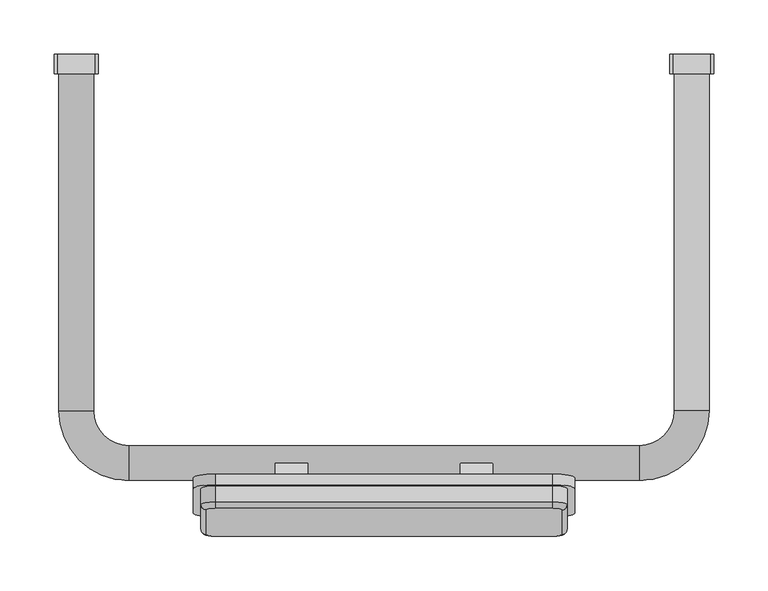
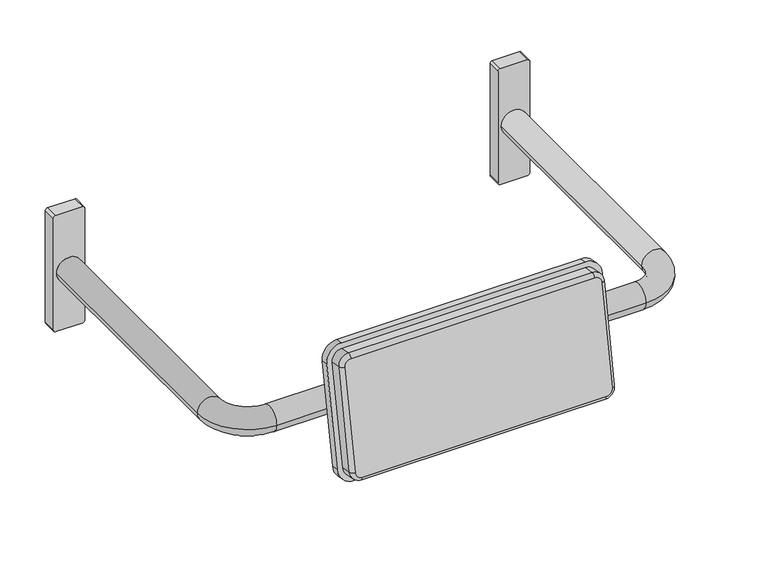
"""IFC4 building model written with IfcOpenShell, lengths in millimetres: proxy geometry, Backrest_Metlam_Straight Rail : 597w x 442d x 156h (MLR119MKII)."""

from ifc_helpers import new_model, si_unit, point, frame, origin, place, context, project, spatial, circle_curve, ellipse_curve, trimmed, source, transform, mapped, element, save
from ifc_brep_helpers import plane_surface, cylinder_surface, revolved_surface, advanced_brep


def specialty_equipment_59cae8f1(model_context):
    return source(origin(), model_context, "Body", "AdvancedBrep", [
        advanced_brep(
        [(97.0363457, -385.1433941, 791.708659), (117.0363457, -388.6163577, 772.0125039), (117.0363457, -411.1906208, 643.9874961), (97.0363457, -414.6635843, 624.291341), (-212.9636543, -414.6635843, 624.291341), (-232.9636543, -411.1906208, 643.9874961), (-232.9636543, -388.6163577, 772.0125039), (-212.9636543, -385.1433941, 791.708659), (105.0363457, -418.1605902, 777.2219493), (97.0363457, -416.7714048, 785.1004113), (-212.9636543, -416.7714048, 785.1004113), (-220.9636543, -418.1605902, 777.2219493), (-220.9636543, -440.7348533, 649.1969414), (-212.9636543, -442.1240388, 641.3184794), (97.0363457, -442.1240388, 641.3184794), (105.0363457, -440.7348533, 649.1969414), (97.0363457, -394.9914716, 793.4451408), (117.0363457, -398.4644352, 773.7489857), (110.0363457, -413.2365515, 776.3537084), (97.0363457, -410.9791252, 789.1562092), (110.0363457, -398.4644352, 773.7489857), (97.0363457, -396.2070089, 786.5514865), (117.0363457, -421.0386983, 645.7239778), (110.0363457, -435.8108146, 648.3287005), (110.0363457, -421.0386983, 645.7239778), (97.0363457, -424.5116618, 626.0278228), (97.0363457, -438.0682409, 635.5261997), (97.0363457, -423.2961246, 632.921477), (-212.9636543, -424.5116618, 626.0278228), (-212.9636543, -438.0682409, 635.5261997), (-212.9636543, -423.2961246, 632.921477), (-232.9636543, -421.0386983, 645.7239778), (-225.9636543, -435.8108146, 648.3287005), (-225.9636543, -421.0386983, 645.7239778), (-232.9636543, -398.4644352, 773.7489857), (-225.9636543, -413.2365515, 776.3537084), (-225.9636543, -398.4644352, 773.7489857), (-212.9636543, -394.9914716, 793.4451408), (-212.9636543, -410.9791252, 789.1562092), (-212.9636543, -396.2070089, 786.5514865)],
        [
            (0, 1, circle_curve(frame((97.0363457, -388.6163577, 772.0125039), z_axis=(0.0, 0.9848077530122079, -0.17364817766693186), x_axis=(0.0, 0.17364817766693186, 0.9848077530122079)), 20.0)),
            (1, 2),
            (2, 3, circle_curve(frame((97.0363457, -411.1906208, 643.9874961), z_axis=(0.0, 0.9848077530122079, -0.17364817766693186), x_axis=(1.0, 0.0, 0.0)), 20.0)),
            (3, 4),
            (4, 5, circle_curve(frame((-212.9636543, -411.1906208, 643.9874961), z_axis=(0.0, 0.9848077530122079, -0.17364817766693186), x_axis=(0.0, -0.17364817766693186, -0.9848077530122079)), 20.0)),
            (5, 6),
            (6, 7, circle_curve(frame((-212.9636543, -388.6163577, 772.0125039), z_axis=(0.0, 0.9848077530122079, -0.17364817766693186), x_axis=(-1.0, 0.0, 0.0)), 20.0)),
            (7, 0),
            (8, 9, circle_curve(frame((97.0363457, -418.1605902, 777.2219493), z_axis=(0.0, -0.9848077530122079, 0.17364817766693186), x_axis=(0.0, 0.17364817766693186, 0.9848077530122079)), 8.0)),
            (9, 10),
            (10, 11, circle_curve(frame((-212.9636543, -418.1605902, 777.2219493), z_axis=(0.0, -0.9848077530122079, 0.17364817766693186), x_axis=(-1.0, 0.0, 0.0)), 8.0)),
            (11, 12),
            (12, 13, circle_curve(frame((-212.9636543, -440.7348533, 649.1969414), z_axis=(0.0, -0.9848077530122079, 0.17364817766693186), x_axis=(0.0, -0.17364817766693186, -0.9848077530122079)), 8.0)),
            (13, 14),
            (14, 15, circle_curve(frame((97.0363457, -440.7348533, 649.1969414), z_axis=(0.0, -0.9848077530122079, 0.17364817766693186), x_axis=(1.0, 0.0, 0.0)), 8.0)),
            (15, 8),
            (0, 16),
            (16, 17, circle_curve(frame((97.0363457, -398.4644352, 773.7489857), z_axis=(0.0, 0.9848077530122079, -0.17364817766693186), x_axis=(0.0, 0.17364817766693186, 0.9848077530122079)), 20.0)),
            (17, 1),
            (18, 19, circle_curve(frame((97.0363457, -413.2365515, 776.3537084), z_axis=(0.0, -0.9848077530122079, 0.17364817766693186), x_axis=(0.0, 0.17364817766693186, 0.9848077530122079)), 13.0)),
            (19, 9, circle_curve(frame((97.0363457, -411.8473661, 784.2321704), z_axis=(1.0000000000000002, 0.0, 0.0), x_axis=(0.0, -0.17364817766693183, -0.9848077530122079)), 5.0)),
            (8, 18, circle_curve(frame((105.0363457, -413.2365515, 776.3537084), z_axis=(0.0, 0.17364817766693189, 0.9848077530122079), x_axis=(-1.0000000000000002, 0.0, 0.0)), 5.0)),
            (18, 20),
            (20, 21, circle_curve(frame((97.0363457, -398.4644352, 773.7489857), z_axis=(0.0, -0.9848077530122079, 0.17364817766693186), x_axis=(0.0, 0.17364817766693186, 0.9848077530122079)), 13.0)),
            (21, 19),
            (17, 22),
            (22, 2),
            (15, 23, circle_curve(frame((105.0363457, -435.8108146, 648.3287005), z_axis=(0.0, 0.17364817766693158, 0.984807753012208), x_axis=(-1.0, 0.0, 0.0)), 5.0)),
            (23, 18),
            (23, 24),
            (24, 20),
            (22, 25, circle_curve(frame((97.0363457, -421.0386983, 645.7239778), z_axis=(0.0, 0.9848077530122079, -0.17364817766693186), x_axis=(1.0, 0.0, 0.0)), 20.0)),
            (25, 3),
            (14, 26, circle_curve(frame((97.0363457, -437.2, 640.4502385), z_axis=(1.0, 0.0, 0.0), x_axis=(0.0, 0.17364817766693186, 0.9848077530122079)), 5.0)),
            (26, 23, circle_curve(frame((97.0363457, -435.8108146, 648.3287005), z_axis=(0.0, -0.9848077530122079, 0.17364817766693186), x_axis=(1.0, 0.0, 0.0)), 13.0)),
            (26, 27),
            (27, 24, circle_curve(frame((97.0363457, -421.0386983, 645.7239778), z_axis=(0.0, -0.9848077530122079, 0.17364817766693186), x_axis=(1.0, 0.0, 0.0)), 13.0)),
            (25, 28),
            (28, 4),
            (13, 29, circle_curve(frame((-212.9636543, -437.2, 640.4502385), z_axis=(1.0, 0.0, 0.0), x_axis=(0.0, 0.17364817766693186, 0.9848077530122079)), 5.0)),
            (29, 26),
            (29, 30),
            (30, 27),
            (28, 31, circle_curve(frame((-212.9636543, -421.0386983, 645.7239778), z_axis=(0.0, 0.9848077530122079, -0.17364817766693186), x_axis=(0.0, -0.17364817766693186, -0.9848077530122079)), 20.0)),
            (31, 5),
            (12, 32, circle_curve(frame((-220.9636543, -435.8108146, 648.3287005), z_axis=(0.0, -0.1736481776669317, -0.9848077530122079), x_axis=(1.0000000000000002, 0.0, 0.0)), 5.0)),
            (32, 29, circle_curve(frame((-212.9636543, -435.8108146, 648.3287005), z_axis=(0.0, -0.9848077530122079, 0.17364817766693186), x_axis=(0.0, -0.17364817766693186, -0.9848077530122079)), 13.0)),
            (32, 33),
            (33, 30, circle_curve(frame((-212.9636543, -421.0386983, 645.7239778), z_axis=(0.0, -0.9848077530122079, 0.17364817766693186), x_axis=(0.0, -0.17364817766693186, -0.9848077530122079)), 13.0)),
            (31, 34),
            (34, 6),
            (11, 35, circle_curve(frame((-220.9636543, -413.2365515, 776.3537084), z_axis=(0.0, -0.17364817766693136, -0.984807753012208), x_axis=(1.0, 0.0, 0.0)), 5.0)),
            (35, 32),
            (35, 36),
            (36, 33),
            (34, 37, circle_curve(frame((-212.9636543, -398.4644352, 773.7489857), z_axis=(0.0, 0.9848077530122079, -0.17364817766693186), x_axis=(-1.0, 0.0, 0.0)), 20.0)),
            (37, 7),
            (10, 38, circle_curve(frame((-212.9636543, -411.8473661, 784.2321704), z_axis=(-1.0, 0.0, 0.0), x_axis=(0.0, -0.1736481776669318, -0.9848077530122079)), 5.0)),
            (38, 35, circle_curve(frame((-212.9636543, -413.2365515, 776.3537084), z_axis=(0.0, -0.9848077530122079, 0.17364817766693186), x_axis=(-1.0, 0.0, 0.0)), 13.0)),
            (38, 39),
            (39, 36, circle_curve(frame((-212.9636543, -398.4644352, 773.7489857), z_axis=(0.0, -0.9848077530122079, 0.17364817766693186), x_axis=(-1.0, 0.0, 0.0)), 13.0)),
            (37, 16),
            (19, 38),
            (21, 39),
        ],
        [
            plane_surface(frame((-212.9636543, -388.0954131, 774.9669272), z_axis=(0.0, 0.9848077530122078, -0.17364817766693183), x_axis=(1.0, 0.0, 0.0))),
            plane_surface(frame((-212.9636543, -417.6396457, 780.1763725), z_axis=(0.0, -0.9848077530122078, 0.17364817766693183), x_axis=(-1.0, 0.0, 0.0))),
            cylinder_surface(frame((97.0363457, -379.9813415, 770.4899176), z_axis=(0.0, 0.9848077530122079, -0.17364817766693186), x_axis=(0.0, 0.17364817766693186, 0.9848077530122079)), 20.0),
            revolved_surface(trimmed(ellipse_curve(frame((97.0363457, -411.8473661, 784.2321704), z_axis=(-1.0000000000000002, 0.0, 0.0), x_axis=(0.0, -0.17364817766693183, -0.9848077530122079)), 5.0, 5.0), [point((97.0363457, -416.7714048, 785.1004113))], [point((97.0363457, -410.9791252, 789.1562092))], True, "CARTESIAN"), (97.0363457, -379.9813415, 770.4899176), (0.0, 0.9848077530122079, -0.17364817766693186)),
            cylinder_surface(frame((97.0363457, -379.9813415, 770.4899176), z_axis=(0.0, 0.9848077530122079, -0.17364817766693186), x_axis=(0.0, 0.17364817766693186, 0.9848077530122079)), 13.0),
            plane_surface(frame((117.0363457, -398.4644352, 773.7489857), z_axis=(1.0, 0.0, 0.0), x_axis=(0.0, -0.17364817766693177, -0.9848077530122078))),
            cylinder_surface(frame((105.0363457, -413.2365515, 776.3537084), z_axis=(0.0, 0.17364817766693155, 0.9848077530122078), x_axis=(-1.0, 0.0, 0.0)), 5.0),
            plane_surface(frame((110.0363457, -413.2365515, 776.3537084), z_axis=(1.0, 0.0, 0.0), x_axis=(0.0, -0.17364817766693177, -0.9848077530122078))),
            cylinder_surface(frame((97.0363457, -402.5556046, 642.4649097), z_axis=(0.0, 0.9848077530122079, -0.17364817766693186), x_axis=(1.0, 0.0, 0.0)), 20.0),
            revolved_surface(trimmed(ellipse_curve(frame((105.0363457, -435.8108146, 648.3287005), z_axis=(0.0, 0.173648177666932, 0.9848077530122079), x_axis=(-1.0, 0.0, 0.0)), 5.0, 5.0), [point((105.0363457, -440.7348533, 649.1969414))], [point((110.0363457, -435.8108146, 648.3287005))], True, "CARTESIAN"), (97.0363457, -402.5556046, 642.4649097), (0.0, 0.9848077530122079, -0.17364817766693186)),
            cylinder_surface(frame((97.0363457, -402.5556046, 642.4649097), z_axis=(0.0, 0.9848077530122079, -0.17364817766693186), x_axis=(1.0, 0.0, 0.0)), 13.0),
            plane_surface(frame((97.0363457, -424.5116618, 626.0278228), z_axis=(0.0, -0.17364817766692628, -0.9848077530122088), x_axis=(-1.0, 0.0, 0.0))),
            cylinder_surface(frame((97.0363457, -437.2, 640.4502385), z_axis=(1.0000000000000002, 0.0, 0.0), x_axis=(0.0, 0.17364817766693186, 0.9848077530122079)), 5.0),
            plane_surface(frame((97.0363457, -438.0682409, 635.5261997), z_axis=(0.0, -0.17364817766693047, -0.9848077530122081), x_axis=(-1.0, 0.0, 0.0))),
            cylinder_surface(frame((-212.9636543, -402.5556046, 642.4649097), z_axis=(0.0, 0.9848077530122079, -0.17364817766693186), x_axis=(0.0, -0.17364817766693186, -0.9848077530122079)), 20.0),
            revolved_surface(trimmed(ellipse_curve(frame((-212.9636543, -437.2, 640.4502385), z_axis=(1.0000000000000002, 0.0, 0.0), x_axis=(0.0, 0.17364817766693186, 0.9848077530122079)), 5.0, 5.0), [point((-212.9636543, -442.1240388, 641.3184794))], [point((-212.9636543, -438.0682409, 635.5261997))], True, "CARTESIAN"), (-212.9636543, -402.5556046, 642.4649097), (0.0, 0.9848077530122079, -0.17364817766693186)),
            cylinder_surface(frame((-212.9636543, -402.5556046, 642.4649097), z_axis=(0.0, 0.9848077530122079, -0.17364817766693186), x_axis=(0.0, -0.17364817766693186, -0.9848077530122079)), 13.0),
            plane_surface(frame((-232.9636543, -421.0386983, 645.7239778), z_axis=(-1.0, 0.0, 0.0), x_axis=(0.0, 0.17364817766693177, 0.9848077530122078))),
            cylinder_surface(frame((-220.9636543, -435.8108146, 648.3287005), z_axis=(0.0, -0.17364817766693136, -0.984807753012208), x_axis=(1.0, 0.0, 0.0)), 5.0),
            plane_surface(frame((-225.9636543, -435.8108146, 648.3287005), z_axis=(-1.0, 0.0, 0.0), x_axis=(0.0, 0.17364817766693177, 0.9848077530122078))),
            cylinder_surface(frame((-212.9636543, -379.9813415, 770.4899176), z_axis=(0.0, 0.9848077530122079, -0.17364817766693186), x_axis=(-1.0, 0.0, 0.0)), 20.0),
            revolved_surface(trimmed(ellipse_curve(frame((-220.9636543, -413.2365515, 776.3537084), z_axis=(0.0, -0.17364817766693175, -0.9848077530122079), x_axis=(1.0, 0.0, 0.0)), 5.0, 5.0), [point((-220.9636543, -418.1605902, 777.2219493))], [point((-225.9636543, -413.2365515, 776.3537084))], True, "CARTESIAN"), (-212.9636543, -379.9813415, 770.4899176), (0.0, 0.9848077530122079, -0.17364817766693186)),
            cylinder_surface(frame((-212.9636543, -379.9813415, 770.4899176), z_axis=(0.0, 0.9848077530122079, -0.17364817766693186), x_axis=(-1.0, 0.0, 0.0)), 13.0),
            plane_surface(frame((-212.9636543, -394.9914716, 793.4451408), z_axis=(0.0, 0.1736481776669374, 0.9848077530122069), x_axis=(1.0, 0.0, 0.0))),
            cylinder_surface(frame((-212.9636543, -411.8473661, 784.2321704), z_axis=(-1.0, 0.0, 0.0), x_axis=(0.0, -0.1736481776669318, -0.9848077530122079)), 5.0),
            plane_surface(frame((-212.9636543, -410.9791252, 789.1562092), z_axis=(0.0, 0.1736481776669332, 0.9848077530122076), x_axis=(1.0, 0.0, 0.0))),
            plane_surface(frame((-212.9636543, -396.2070089, 786.5514865), z_axis=(0.0, -0.9848077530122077, 0.17364817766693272), x_axis=(1.0, 0.0, 0.0))),
        ],
        [
            (0, [[1, 2, 3, 4, 5, 6, 7, 8]]),
            (1, [[9, 10, 11, 12, 13, 14, 15, 16]]),
            (2, [[-1, 17, 18, 19]]),
            (3, [[20, 21, -9, 22]]),
            (4, [[-20, 23, 24, 25]]),
            (5, [[-19, 26, 27, -2]]),
            (6, [[-22, -16, 28, 29]]),
            (7, [[-23, -29, 30, 31]]),
            (8, [[-27, 32, 33, -3]]),
            (9, [[-28, -15, 34, 35]]),
            (10, [[-30, -35, 36, 37]]),
            (11, [[-33, 38, 39, -4]]),
            (12, [[-34, -14, 40, 41]]),
            (13, [[-36, -41, 42, 43]]),
            (14, [[-39, 44, 45, -5]]),
            (15, [[-40, -13, 46, 47]]),
            (16, [[-42, -47, 48, 49]]),
            (17, [[-45, 50, 51, -6]]),
            (18, [[-46, -12, 52, 53]]),
            (19, [[-48, -53, 54, 55]]),
            (20, [[-51, 56, 57, -7]]),
            (21, [[-52, -11, 58, 59]]),
            (22, [[-54, -59, 60, 61]]),
            (23, [[-17, -8, -57, 62]]),
            (24, [[-21, 63, -58, -10]]),
            (25, [[-25, 64, -60, -63]]),
            (26, [[-18, -62, -56, -50, -44, -38, -32, -26], [-24, -31, -37, -43, -49, -55, -61, -64]]),
        ],
    ),
        advanced_brep(
        [(-127.9636543, -391.0, 758.3121107), (-127.9636543, -408.7447014, 657.6769082), (-127.9636543, -375.0, 691.4216096), (-127.9636543, -375.0, 692.0), (-127.9636543, -391.0, 708.0), (-127.9636543, -375.0, 724.0), (-157.9636543, -391.0, 758.3121107), (-157.9636543, -375.0, 724.0), (-157.9636543, -391.0, 708.0), (-157.9636543, -375.0, 692.0), (-157.9636543, -375.0, 691.4216096), (-157.9636543, -408.7447014, 657.6769082), (-323.4636543, 0.0, 786.0), (-320.4636543, 0.0, 783.0), (-320.4636543, 0.0, 633.0), (-323.4636543, 0.0, 630.0), (-357.4636543, 0.0, 630.0), (-360.4636543, 0.0, 633.0), (-360.4636543, 0.0, 783.0), (-357.4636543, 0.0, 786.0), (-356.4636543, -327.0, 708.0), (-324.4636543, -327.0, 708.0), (-324.4636543, -17.5, 708.0), (-356.4636543, -17.5, 708.0), (-292.4636543, -391.0, 708.0), (-292.4636543, -359.0, 708.0), (12.0363457, -391.0, 708.0), (12.0363457, -375.0, 724.0), (42.0363457, -375.0, 724.0), (42.0363457, -391.0, 708.0), (176.5363457, -391.0, 708.0), (176.5363457, -359.0, 708.0), (42.0363457, -375.0, 692.0), (12.0363457, -375.0, 692.0), (240.5363457, -327.0, 708.0), (208.5363457, -327.0, 708.0), (207.5363457, 0.0, 786.0), (241.5363457, 0.0, 786.0), (244.5363457, 0.0, 783.0), (244.5363457, 0.0, 633.0), (241.5363457, 0.0, 630.0), (207.5363457, 0.0, 630.0), (204.5363457, 0.0, 633.0), (204.5363457, 0.0, 783.0), (240.5363457, -17.5, 708.0), (208.5363457, -17.5, 708.0), (-323.4636543, -17.5, 786.0), (-357.4636543, -17.5, 786.0), (-360.4636543, -17.5, 783.0), (-360.4636543, -17.5, 633.0), (-357.4636543, -17.5, 630.0), (-323.4636543, -17.5, 630.0), (-320.4636543, -17.5, 633.0), (-320.4636543, -17.5, 783.0), (207.5363457, -17.5, 786.0), (204.5363457, -17.5, 783.0), (204.5363457, -17.5, 633.0), (207.5363457, -17.5, 630.0), (241.5363457, -17.5, 630.0), (244.5363457, -17.5, 633.0), (244.5363457, -17.5, 783.0), (241.5363457, -17.5, 786.0), (12.0363457, -391.0, 758.3121107), (12.0363457, -375.0, 691.4216096), (12.0363457, -408.7447014, 657.6769082), (42.0363457, -391.0, 758.3121107), (42.0363457, -408.7447014, 657.6769082), (42.0363457, -375.0, 691.4216096)],
        [
            (0, 1),
            (1, 2),
            (2, 3),
            (3, 4, circle_curve(frame((-127.9636543, -375.0, 708.0), z_axis=(-1.0, 0.0, 0.0), x_axis=(0.0, 1.0, 0.0)), 16.0)),
            (4, 5, circle_curve(frame((-127.9636543, -375.0, 708.0), z_axis=(-1.0, 0.0, 0.0), x_axis=(0.0, 1.0, 0.0)), 16.0)),
            (5, 0),
            (6, 7),
            (7, 8, circle_curve(frame((-157.9636543, -375.0, 708.0), z_axis=(1.0, 0.0, 0.0), x_axis=(0.0, 1.0, 0.0)), 16.0)),
            (8, 9, circle_curve(frame((-157.9636543, -375.0, 708.0), z_axis=(1.0, 0.0, 0.0), x_axis=(0.0, 1.0, 0.0)), 16.0)),
            (9, 10),
            (10, 11),
            (11, 6),
            (0, 6),
            (11, 1),
            (10, 2),
            (9, 3),
            (5, 7),
            (12, 13, circle_curve(frame((-323.4636543, 0.0, 783.0), z_axis=(0.0, 1.0, 0.0), x_axis=(1.0, 0.0, 0.0)), 3.0)),
            (13, 14),
            (14, 15, circle_curve(frame((-323.4636543, 0.0, 633.0), z_axis=(0.0, 1.0, 0.0), x_axis=(1.0, 0.0, 0.0)), 3.0)),
            (15, 16),
            (16, 17, circle_curve(frame((-357.4636543, 0.0, 633.0), z_axis=(0.0, 1.0, 0.0), x_axis=(1.0, 0.0, 0.0)), 3.0)),
            (17, 18),
            (18, 19, circle_curve(frame((-357.4636543, 0.0, 783.0), z_axis=(0.0, 1.0, 0.0), x_axis=(1.0, 0.0, 0.0)), 3.0)),
            (19, 12),
            (20, 21, circle_curve(frame((-340.4636543, -327.0, 708.0), z_axis=(0.0, 1.0, 0.0), x_axis=(1.0, 0.0, 0.0)), 16.0)),
            (21, 22),
            (22, 23, circle_curve(frame((-340.4636543, -17.5, 708.0), z_axis=(0.0, -1.0, 0.0), x_axis=(1.0, 0.0, 0.0)), 16.0)),
            (23, 20),
            (21, 20, circle_curve(frame((-340.4636543, -327.0, 708.0), z_axis=(0.0, 1.0, 0.0), x_axis=(1.0, 0.0, 0.0)), 16.0)),
            (23, 22, circle_curve(frame((-340.4636543, -17.5, 708.0), z_axis=(0.0, -1.0, 0.0), x_axis=(1.0, 0.0, 0.0)), 16.0)),
            (20, 24, circle_curve(frame((-292.4636543, -327.0, 708.0), z_axis=(0.0, 0.0, 1.0), x_axis=(-1.0, 0.0, 0.0)), 64.0)),
            (24, 25, circle_curve(frame((-292.4636543, -375.0, 708.0), z_axis=(-1.0, 0.0, 0.0), x_axis=(0.0, 1.0, 0.0)), 16.0)),
            (25, 21, circle_curve(frame((-292.4636543, -327.0, 708.0), z_axis=(0.0, 0.0, -1.0), x_axis=(-1.0, 0.0, 0.0)), 32.0)),
            (25, 24, circle_curve(frame((-292.4636543, -375.0, 708.0), z_axis=(-1.0, 0.0, 0.0), x_axis=(0.0, 1.0, 0.0)), 16.0)),
            (24, 8),
            (4, 26),
            (26, 27, circle_curve(frame((12.0363457, -375.0, 708.0), z_axis=(-1.0, 0.0, 0.0), x_axis=(0.0, 1.0, 0.0)), 16.0)),
            (27, 28),
            (28, 29, circle_curve(frame((42.0363457, -375.0, 708.0), z_axis=(1.0, 0.0, 0.0), x_axis=(0.0, 1.0, 0.0)), 16.0)),
            (29, 30),
            (30, 31, circle_curve(frame((176.5363457, -375.0, 708.0), z_axis=(-1.0, 0.0, 0.0), x_axis=(0.0, 1.0, 0.0)), 16.0)),
            (31, 25),
            (31, 30, circle_curve(frame((176.5363457, -375.0, 708.0), z_axis=(-1.0, 0.0, 0.0), x_axis=(0.0, 1.0, 0.0)), 16.0)),
            (29, 32, circle_curve(frame((42.0363457, -375.0, 708.0), z_axis=(1.0, 0.0, 0.0), x_axis=(0.0, 1.0, 0.0)), 16.0)),
            (32, 33),
            (33, 26, circle_curve(frame((12.0363457, -375.0, 708.0), z_axis=(-1.0, 0.0, 0.0), x_axis=(0.0, 1.0, 0.0)), 16.0)),
            (30, 34, circle_curve(frame((176.5363457, -327.0, 708.0), z_axis=(0.0, 0.0, 1.0), x_axis=(0.0, -1.0, 0.0)), 64.0)),
            (34, 35, circle_curve(frame((224.5363457, -327.0, 708.0), z_axis=(0.0, -1.0, 0.0), x_axis=(-1.0, 0.0, 0.0)), 16.0)),
            (35, 31, circle_curve(frame((176.5363457, -327.0, 708.0), z_axis=(0.0, 0.0, -1.0), x_axis=(0.0, -1.0, 0.0)), 32.0)),
            (35, 34, circle_curve(frame((224.5363457, -327.0, 708.0), z_axis=(0.0, -1.0, 0.0), x_axis=(-1.0, 0.0, 0.0)), 16.0)),
            (36, 37),
            (37, 38, circle_curve(frame((241.5363457, 0.0, 783.0), z_axis=(0.0, 1.0, 0.0), x_axis=(-1.0, 0.0, 0.0)), 3.0)),
            (38, 39),
            (39, 40, circle_curve(frame((241.5363457, 0.0, 633.0), z_axis=(0.0, 1.0, 0.0), x_axis=(-1.0, 0.0, 0.0)), 3.0)),
            (40, 41),
            (41, 42, circle_curve(frame((207.5363457, 0.0, 633.0), z_axis=(0.0, 1.0, 0.0), x_axis=(-1.0, 0.0, 0.0)), 3.0)),
            (42, 43),
            (43, 36, circle_curve(frame((207.5363457, 0.0, 783.0), z_axis=(0.0, 1.0, 0.0), x_axis=(-1.0, 0.0, 0.0)), 3.0)),
            (34, 44),
            (44, 45, circle_curve(frame((224.5363457, -17.5, 708.0), z_axis=(0.0, -1.0, 0.0), x_axis=(-1.0, 0.0, 0.0)), 16.0)),
            (45, 35),
            (45, 44, circle_curve(frame((224.5363457, -17.5, 708.0), z_axis=(0.0, -1.0, 0.0), x_axis=(-1.0, 0.0, 0.0)), 16.0)),
            (46, 47),
            (47, 48, circle_curve(frame((-357.4636543, -17.5, 783.0), z_axis=(0.0, -1.0, 0.0), x_axis=(1.0, 0.0, 0.0)), 3.0)),
            (48, 49),
            (49, 50, circle_curve(frame((-357.4636543, -17.5, 633.0), z_axis=(0.0, -1.0, 0.0), x_axis=(1.0, 0.0, 0.0)), 3.0)),
            (50, 51),
            (51, 52, circle_curve(frame((-323.4636543, -17.5, 633.0), z_axis=(0.0, -1.0, 0.0), x_axis=(1.0, 0.0, 0.0)), 3.0)),
            (52, 53),
            (53, 46, circle_curve(frame((-323.4636543, -17.5, 783.0), z_axis=(0.0, -1.0, 0.0), x_axis=(1.0, 0.0, 0.0)), 3.0)),
            (46, 12),
            (19, 47),
            (18, 48),
            (17, 49),
            (16, 50),
            (15, 51),
            (14, 52),
            (13, 53),
            (54, 55, circle_curve(frame((207.5363457, -17.5, 783.0), z_axis=(0.0, -1.0, 0.0), x_axis=(-1.0, 0.0, 0.0)), 3.0)),
            (55, 56),
            (56, 57, circle_curve(frame((207.5363457, -17.5, 633.0), z_axis=(0.0, -1.0, 0.0), x_axis=(-1.0, 0.0, 0.0)), 3.0)),
            (57, 58),
            (58, 59, circle_curve(frame((241.5363457, -17.5, 633.0), z_axis=(0.0, -1.0, 0.0), x_axis=(-1.0, 0.0, 0.0)), 3.0)),
            (59, 60),
            (60, 61, circle_curve(frame((241.5363457, -17.5, 783.0), z_axis=(0.0, -1.0, 0.0), x_axis=(-1.0, 0.0, 0.0)), 3.0)),
            (61, 54),
            (61, 37),
            (36, 54),
            (60, 38),
            (59, 39),
            (58, 40),
            (57, 41),
            (56, 42),
            (55, 43),
            (62, 27),
            (33, 63),
            (63, 64),
            (64, 62),
            (65, 66),
            (66, 67),
            (67, 32),
            (28, 65),
            (64, 66),
            (65, 62),
            (63, 67),
        ],
        [
            plane_surface(frame((-127.9636543, -391.0, 758.3121107), z_axis=(1.0, 0.0, 0.0), x_axis=(0.0, -0.1736481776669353, -0.9848077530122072))),
            plane_surface(frame((-157.9636543, -391.0, 758.3121107), z_axis=(-1.0, 0.0, 0.0), x_axis=(0.0, 0.1736481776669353, 0.9848077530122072))),
            plane_surface(frame((-127.9636543, -391.0, 758.3121107), z_axis=(0.0, -0.9848077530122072, 0.1736481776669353), x_axis=(-1.0, 0.0, 0.0))),
            plane_surface(frame((-127.9636543, -408.7447014, 657.6769082), z_axis=(0.0, 0.7071067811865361, -0.7071067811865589), x_axis=(-1.0, 0.0, 0.0))),
            plane_surface(frame((-127.9636543, -375.0, 691.4216096), z_axis=(0.0, 1.0, 0.0), x_axis=(-1.0, 0.0, 0.0))),
            plane_surface(frame((-127.9636543, -375.0, 724.0), z_axis=(0.0, 0.9063077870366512, 0.42261826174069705), x_axis=(-1.0, 0.0, 0.0))),
            plane_surface(frame((-340.4636543, 0.0, 708.0), z_axis=(0.0, 1.0, 0.0), x_axis=(0.0, 0.0, 1.0))),
            cylinder_surface(frame((-340.4636543, 0.0, 708.0), z_axis=(0.0, 1.0, 0.0), x_axis=(1.0, 0.0, 0.0)), 16.0),
            revolved_surface(trimmed(ellipse_curve(frame((-340.4636543, -327.0, 708.0), z_axis=(0.0, 1.0, 0.0), x_axis=(1.0, 0.0, 0.0)), 16.0, 16.0), [point((-356.4636543, -327.0, 708.0))], [point((-324.4636543, -327.0, 708.0))], True, "CARTESIAN"), (-292.4636543, -327.0, 708.0), (0.0, 0.0, 1.0)),
            revolved_surface(trimmed(ellipse_curve(frame((-340.4636543, -327.0, 708.0), z_axis=(0.0, 1.0, 0.0), x_axis=(1.0, 0.0, 0.0)), 16.0, 16.0), [point((-324.4636543, -327.0, 708.0))], [point((-356.4636543, -327.0, 708.0))], True, "CARTESIAN"), (-292.4636543, -327.0, 708.0), (0.0, 0.0, 1.0)),
            cylinder_surface(frame((-292.4636543, -375.0, 708.0), z_axis=(-1.0, 0.0, 0.0), x_axis=(0.0, 1.0, 0.0)), 16.0),
            revolved_surface(trimmed(ellipse_curve(frame((176.5363457, -375.0, 708.0), z_axis=(-1.0, 0.0, 0.0), x_axis=(0.0, 1.0, 0.0)), 16.0, 16.0), [point((176.5363457, -391.0, 708.0))], [point((176.5363457, -359.0, 708.0))], True, "CARTESIAN"), (176.5363457, -327.0, 708.0), (0.0, 0.0, 1.0)),
            revolved_surface(trimmed(ellipse_curve(frame((176.5363457, -375.0, 708.0), z_axis=(-1.0, 0.0, 0.0), x_axis=(0.0, 1.0, 0.0)), 16.0, 16.0), [point((176.5363457, -359.0, 708.0))], [point((176.5363457, -391.0, 708.0))], True, "CARTESIAN"), (176.5363457, -327.0, 708.0), (0.0, 0.0, 1.0)),
            plane_surface(frame((224.5363457, 0.0, 708.0), z_axis=(0.0, 1.0, 0.0), x_axis=(0.0, 0.0, 1.0))),
            cylinder_surface(frame((224.5363457, -327.0, 708.0), z_axis=(0.0, -1.0, 0.0), x_axis=(-1.0, 0.0, 0.0)), 16.0),
            plane_surface(frame((-360.4636543, -17.5, 786.0), z_axis=(0.0, -1.0, 0.0), x_axis=(-1.0, 0.0, 0.0))),
            plane_surface(frame((-323.4636543, -17.5, 786.0), z_axis=(0.0, 0.0, 1.0), x_axis=(0.0, 1.0, 0.0))),
            cylinder_surface(frame((-357.4636543, 0.0, 783.0), z_axis=(0.0, -1.0, 0.0), x_axis=(1.0, 0.0, 0.0)), 3.0),
            plane_surface(frame((-360.4636543, -17.5, 783.0), z_axis=(-1.0, 0.0, 0.0), x_axis=(0.0, 1.0, 0.0))),
            cylinder_surface(frame((-357.4636543, 0.0, 633.0), z_axis=(0.0, -1.0, 0.0), x_axis=(1.0, 0.0, 0.0)), 3.0),
            plane_surface(frame((-357.4636543, -17.5, 630.0), z_axis=(0.0, 0.0, -1.0), x_axis=(0.0, 1.0, 0.0))),
            cylinder_surface(frame((-323.4636543, 0.0, 633.0), z_axis=(0.0, -1.0, 0.0), x_axis=(1.0, 0.0, 0.0)), 3.0),
            plane_surface(frame((-320.4636543, -17.5, 633.0), z_axis=(1.0, 0.0, 0.0), x_axis=(0.0, 1.0, 0.0))),
            cylinder_surface(frame((-323.4636543, 0.0, 783.0), z_axis=(0.0, -1.0, 0.0), x_axis=(1.0, 0.0, 0.0)), 3.0),
            plane_surface(frame((204.5363457, -17.5, 783.0), z_axis=(0.0, -1.0, 0.0), x_axis=(0.0, 0.0, -1.0))),
            plane_surface(frame((241.5363457, -17.5, 786.0), z_axis=(0.0, 0.0, 1.0), x_axis=(0.0, 1.0, 0.0))),
            cylinder_surface(frame((241.5363457, 0.0, 783.0), z_axis=(0.0, -1.0, 0.0), x_axis=(-1.0, 0.0, 0.0)), 3.0),
            plane_surface(frame((244.5363457, -17.5, 633.0), z_axis=(1.0, 0.0, 0.0), x_axis=(0.0, 1.0, 0.0))),
            cylinder_surface(frame((241.5363457, 0.0, 633.0), z_axis=(0.0, -1.0, 0.0), x_axis=(-1.0, 0.0, 0.0)), 3.0),
            plane_surface(frame((207.5363457, -17.5, 630.0), z_axis=(0.0, 0.0, -1.0), x_axis=(0.0, 1.0, 0.0))),
            cylinder_surface(frame((207.5363457, 0.0, 633.0), z_axis=(0.0, -1.0, 0.0), x_axis=(-1.0, 0.0, 0.0)), 3.0),
            plane_surface(frame((204.5363457, -17.5, 783.0), z_axis=(-1.0, 0.0, 0.0), x_axis=(0.0, 1.0, 0.0))),
            cylinder_surface(frame((207.5363457, 0.0, 783.0), z_axis=(0.0, -1.0, 0.0), x_axis=(-1.0, 0.0, 0.0)), 3.0),
            plane_surface(frame((12.0363457, -375.0, 724.0), z_axis=(-1.0000000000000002, 0.0, 0.0), x_axis=(0.0, 0.42261826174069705, -0.9063077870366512))),
            plane_surface(frame((42.0363457, -375.0, 724.0), z_axis=(1.0000000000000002, 0.0, 0.0), x_axis=(0.0, -0.42261826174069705, 0.9063077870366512))),
            plane_surface(frame((12.0363457, -408.7447014, 657.6769082), z_axis=(0.0, -0.9848077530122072, 0.1736481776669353), x_axis=(1.0, 0.0, 0.0))),
            plane_surface(frame((12.0363457, -375.0, 691.4216096), z_axis=(0.0, 0.7071067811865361, -0.7071067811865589), x_axis=(1.0, 0.0, 0.0))),
            plane_surface(frame((12.0363457, -375.0, 724.0), z_axis=(0.0, 1.0, 0.0), x_axis=(1.0, 0.0, 0.0))),
            plane_surface(frame((12.0363457, -391.0, 758.3121107), z_axis=(0.0, 0.9063077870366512, 0.42261826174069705), x_axis=(1.0, 0.0, 0.0))),
        ],
        [
            (0, [[1, 2, 3, 4, 5, 6]]),
            (1, [[7, 8, 9, 10, 11, 12]]),
            (2, [[-1, 13, -12, 14]]),
            (3, [[-2, -14, -11, 15]]),
            (4, [[-15, -10, 16, -3]]),
            (5, [[-6, 17, -7, -13]]),
            (6, [[18, 19, 20, 21, 22, 23, 24, 25]]),
            (7, [[26, 27, 28, 29]]),
            (7, [[30, -29, 31, -27]]),
            (8, [[-26, 32, 33, 34]]),
            (9, [[-30, -34, 35, -32]]),
            (10, [[-33, 36, -8, -17, -5, 37, 38, 39, 40, 41, 42, 43]]),
            (10, [[-35, -43, 44, -41, 45, 46, 47, -37, -4, -16, -9, -36]]),
            (11, [[-42, 48, 49, 50]]),
            (12, [[-44, -50, 51, -48]]),
            (13, [[52, 53, 54, 55, 56, 57, 58, 59]]),
            (14, [[-49, 60, 61, 62]]),
            (14, [[-51, -62, 63, -60]]),
            (15, [[64, 65, 66, 67, 68, 69, 70, 71], [-28, -31]]),
            (16, [[-64, 72, -25, 73]]),
            (17, [[-65, -73, -24, 74]]),
            (18, [[-66, -74, -23, 75]]),
            (19, [[-67, -75, -22, 76]]),
            (20, [[-68, -76, -21, 77]]),
            (21, [[-69, -77, -20, 78]]),
            (22, [[-70, -78, -19, 79]]),
            (23, [[-71, -79, -18, -72]]),
            (24, [[80, 81, 82, 83, 84, 85, 86, 87], [-61, -63]]),
            (25, [[-87, 88, -52, 89]]),
            (26, [[-86, 90, -53, -88]]),
            (27, [[-85, 91, -54, -90]]),
            (28, [[-84, 92, -55, -91]]),
            (29, [[-83, 93, -56, -92]]),
            (30, [[-82, 94, -57, -93]]),
            (31, [[-81, 95, -58, -94]]),
            (32, [[-80, -89, -59, -95]]),
            (33, [[96, -38, -47, 97, 98, 99]]),
            (34, [[100, 101, 102, -45, -40, 103]]),
            (35, [[-99, 104, -100, 105]]),
            (36, [[-98, 106, -101, -104]]),
            (37, [[-106, -97, -46, -102]]),
            (38, [[-96, -105, -103, -39]]),
        ],
    ),
    ])


if __name__ == "__main__":
    model = new_model("IFC4")
    model_context = context("Model", 3, world=origin())
    ifc_project = project(units=[si_unit("LENGTHUNIT", "METRE", prefix="MILLI")], contexts=[model_context])
    site = spatial("IfcSite", under=ifc_project)
    building = spatial("IfcBuilding", under=site)
    placement = place(None, origin())
    specialty_equipment_shape = specialty_equipment_59cae8f1(model_context)
    element("IfcBuildingElementProxy", 1, Name="Backrest_Metlam_Straight Rail : 597w x 442d x 156h (MLR119MKII)", ObjectType="Backrest_Metlam_Straight Rail : 597w x 442d x 156h (MLR119MKII)", at=placement, inside=building, context=model_context, shape_type="MappedRepresentation", body=[
        mapped(specialty_equipment_shape, transform((0.0, 0.0, 0.0), x_axis=(1.0, 0.0, 0.0), y_axis=(0.0, 1.0, 0.0), z_axis=(0.0, 0.0, 1.0))),
    ])
    save(model, "model.ifc")
